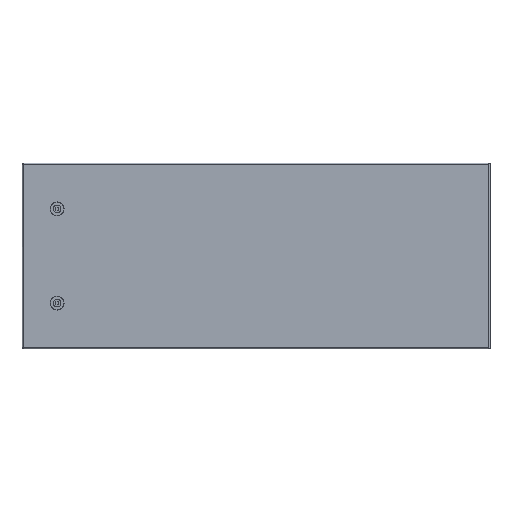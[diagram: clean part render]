
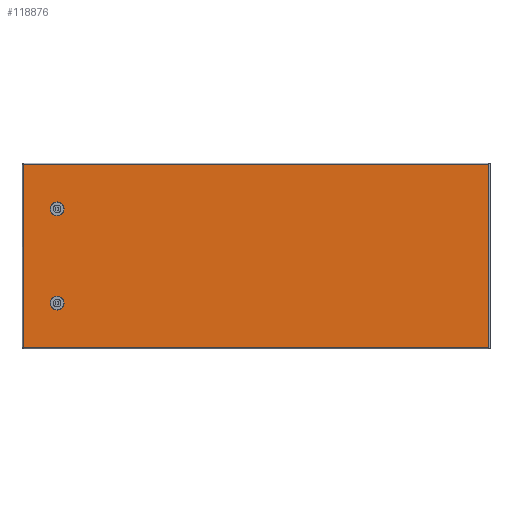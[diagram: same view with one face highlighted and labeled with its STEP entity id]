
A CAD part, top view. The second image highlights one B-rep face of the part: STEP entity #118876.
In plain terms, the highlighted planar face has unit normal (0, 0, 1).
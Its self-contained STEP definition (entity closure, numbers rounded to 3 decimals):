
#117811=CARTESIAN_POINT(' ',(2.8,0.8,0.));
#117816=DIRECTION(' ',(1.,0.,0.));
#117821=VECTOR(' ',#117816,1.);
#117826=LINE('',#117811,#117821);
#117831=CARTESIAN_POINT(' ',(2.8,0.8,0.));
#117832=VERTEX_POINT(' ',#117831);
#117836=CARTESIAN_POINT(' ',(991.2,0.8,0.));
#117837=VERTEX_POINT(' ',#117836);
#117841=EDGE_CURVE(' ',#117832,#117837,#117826,.T.);
#118736=DIRECTION(' ',(-0.,-0.,1.));
#118741=CARTESIAN_POINT(' ',(991.2,0.8,0.));
#118746=DIRECTION(' ',(0.,1.,0.));
#118751=AXIS2_PLACEMENT_3D(' ',#118741,#118736,#118746);
#118756=PLANE('NONE',#118751);
#118761=ORIENTED_EDGE(' ',*,*,#117841,.T.);
#118766=CARTESIAN_POINT(' ',(991.2,390.2,0.));
#118771=DIRECTION(' ',(0.,-1.,0.));
#118776=VECTOR(' ',#118771,1.);
#118781=LINE('',#118766,#118776);
#118786=CARTESIAN_POINT(' ',(991.2,390.2,0.));
#118787=VERTEX_POINT(' ',#118786);
#118791=EDGE_CURVE(' ',#118787,#117837,#118781,.T.);
#118796=ORIENTED_EDGE(' ',*,*,#118791,.F.);
#118801=CARTESIAN_POINT(' ',(991.2,390.2,0.));
#118806=DIRECTION(' ',(-1.,0.,0.));
#118811=VECTOR(' ',#118806,1.);
#118816=LINE('',#118801,#118811);
#118821=CARTESIAN_POINT(' ',(2.8,390.2,0.));
#118822=VERTEX_POINT(' ',#118821);
#118826=EDGE_CURVE(' ',#118787,#118822,#118816,.T.);
#118831=ORIENTED_EDGE(' ',*,*,#118826,.T.);
#118836=CARTESIAN_POINT(' ',(2.8,390.2,0.));
#118841=DIRECTION(' ',(0.,-1.,0.));
#118846=VECTOR(' ',#118841,1.);
#118851=LINE('',#118836,#118846);
#118856=EDGE_CURVE(' ',#118822,#117832,#118851,.T.);
#118861=ORIENTED_EDGE(' ',*,*,#118856,.T.);
#118866=EDGE_LOOP(' ',(#118761,#118796,#118831,#118861));
#118871=FACE_OUTER_BOUND(' ',#118866,.T.);
#118876=ADVANCED_FACE('NONE',(#118871),#118756,.T.);
